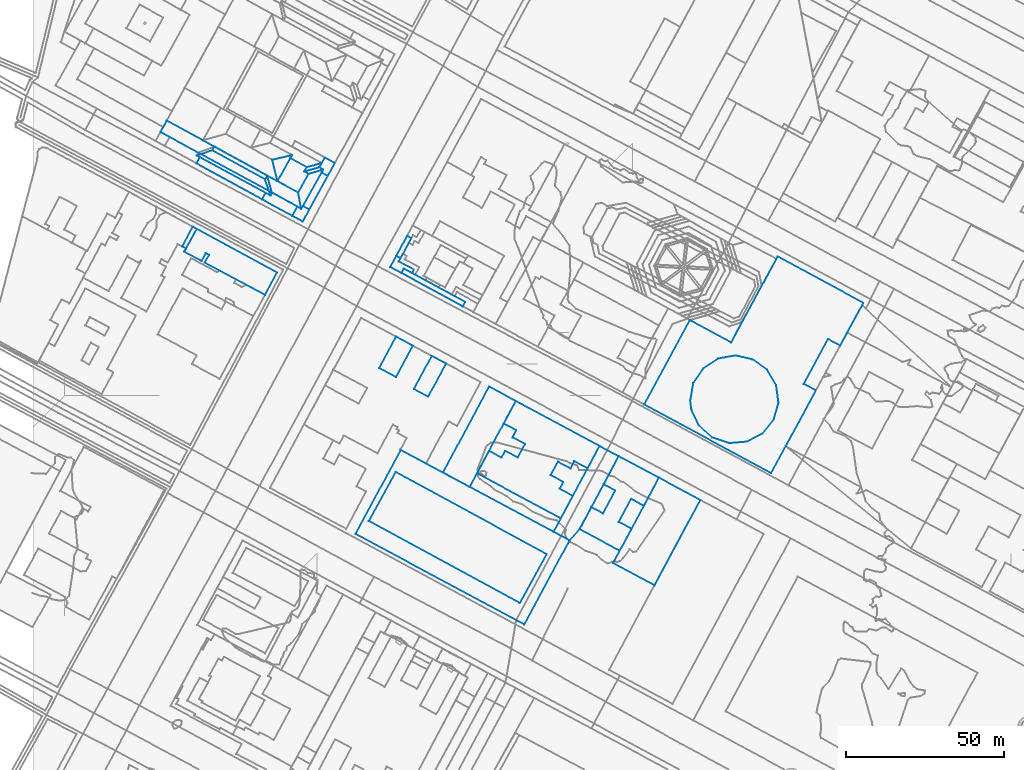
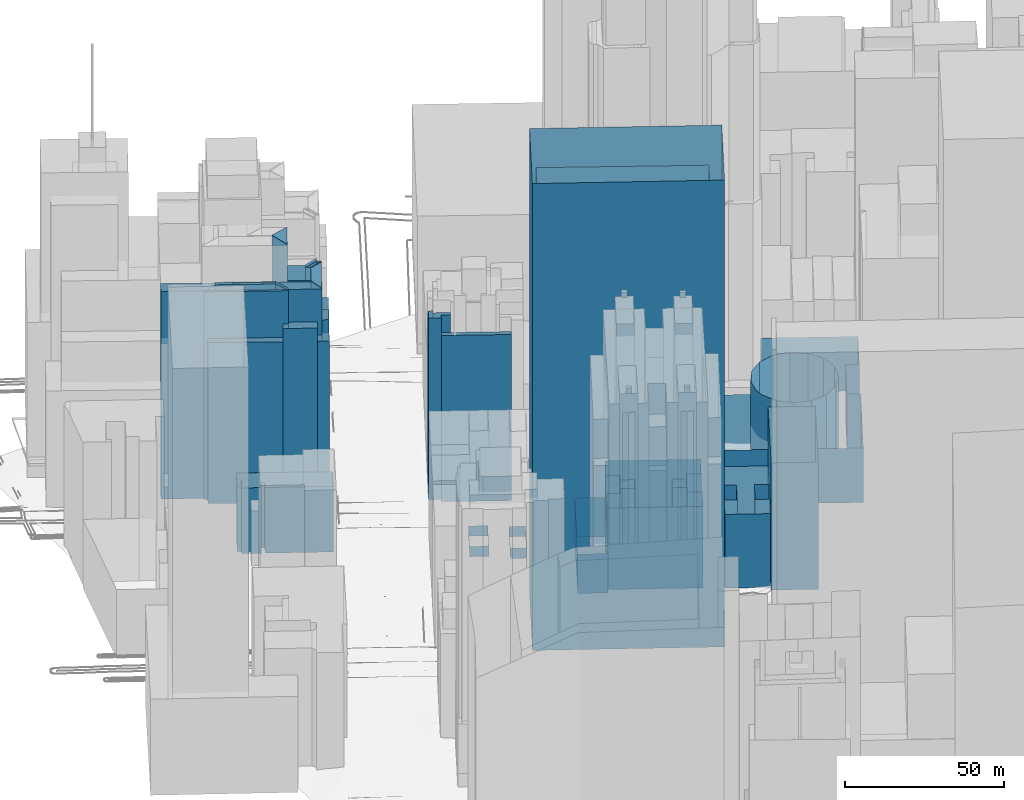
# Not in any storey, part 24 of 80: 30 walls.
"""IFC4 building model written with IfcOpenShell, lengths in metres."""

from ifc_helpers import new_model, si_unit, frame, origin_with_axes, place, context, subcontext, project, spatial, polygons, element, save


model = new_model("IFC4")

# Units and contexts
model_context = context("Model", 3, precision=1e-05, world=origin_with_axes())
body_context = subcontext(model_context, "Body", "Model", "MODEL_VIEW")
ifc_project = project(units=[si_unit("AREAUNIT", "SQUARE_METRE"), si_unit("LENGTHUNIT", "METRE")], contexts=[model_context])

# Sites, building
site_1_placement = place(None, origin_with_axes())
site_1 = spatial("IfcSite", under=ifc_project, at=site_1_placement, Name="Topoexport Site")
site_2_placement = place(site_1_placement, origin_with_axes())
site_2 = spatial("IfcSite", under=site_1, at=site_2_placement, Name="TPX_BATIMENTS")
building_1_placement = place(site_2_placement, frame((183.8820757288, 196.3915098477, 20.8609767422), z_axis=(0.0, 0.0, 1.0), x_axis=(1.0, 0.0, 0.0)))
building_1 = spatial("IfcBuilding", under=site_2, at=building_1_placement, Name="Batiment 41", CompositionType="ELEMENT")

# Wall
wall_1_placement = place(None, frame((183.8820757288, 196.3915098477, 20.8609767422), z_axis=(0.0, 0.0, 1.0), x_axis=(1.0, 0.0, 0.0)))
element("IfcWall", 1, at=wall_1_placement, inside=building_1, Name="Mur 0", context=body_context, shape_type="Tessellation", body=[
    polygons([(0.0, 0.0, 0.0), (13.0985430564, -7.030868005, 0.0), (27.6239079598, 20.0388061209, 0.0), (14.5169569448, 27.0695500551, 0.0), (0.0, 0.0, 49.0), (13.0985430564, -7.030868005, 49.0), (27.6239079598, 20.0388061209, 49.0), (14.5169569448, 27.0695500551, 49.0)], [[[6, 5, 2]], [[2, 5, 1]], [[7, 6, 3]], [[3, 6, 2]], [[5, 8, 1]], [[1, 8, 4]], [[8, 7, 4]], [[4, 7, 3]]]),
])

# Building
building_2_placement = place(site_2_placement, frame((102.2298570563, 205.6345629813, 20.5938253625), z_axis=(0.0, 0.0, 1.0), x_axis=(1.0, 0.0, 0.0)))
building_2 = spatial("IfcBuilding", under=site_2, at=building_2_placement, Name="Batiment 69", CompositionType="ELEMENT")

# Wall
wall_2_placement = place(None, frame((102.2298570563, 205.6345629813, 20.5938253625), z_axis=(0.0, 0.0, 1.0), x_axis=(1.0, 0.0, 0.0)))
element("IfcWall", 2, at=wall_2_placement, inside=building_2, Name="Mur 0", context=body_context, shape_type="Tessellation", body=[
    polygons([(0.0, 0.0, 0.0), (53.4972467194, -28.6328905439, 0.0), (67.8508291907, -2.0204918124, 0.0), (14.353712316, 26.6122941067, 0.0), (0.0, 0.0, 179.8000030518), (53.4972467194, -28.6328905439, 179.8000030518), (67.8508291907, -2.0204918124, 179.8000030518), (14.353712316, 26.6122941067, 179.8000030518)], [[[6, 5, 2]], [[2, 5, 1]], [[7, 6, 3]], [[3, 6, 2]], [[5, 8, 1]], [[1, 8, 4]], [[8, 7, 4]], [[4, 7, 3]]]),
])

# Building
building_3_placement = place(site_2_placement, frame((106.4781571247, 209.8028425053, 21.3379729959), z_axis=(0.0, 0.0, 1.0), x_axis=(1.0, 0.0, 0.0)))
building_3 = spatial("IfcBuilding", under=site_2, at=building_3_placement, Name="Batiment 70", CompositionType="ELEMENT")

# Wall
wall_3_placement = place(None, frame((106.4781571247, 209.8028425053, 21.3379729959), z_axis=(0.0, 0.0, 1.0), x_axis=(1.0, 0.0, 0.0)))
element("IfcWall", 3, at=wall_3_placement, inside=building_3, Name="Mur 0", context=body_context, shape_type="Tessellation", body=[
    polygons([(0.0, 0.0, 0.0), (47.8622501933, -26.0671157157, 0.0), (56.3684390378, -10.5694282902, 0.0), (8.5063843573, 15.4865312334, 0.0), (0.0, 0.0, 168.8000030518), (47.8622501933, -26.0671157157, 168.8000030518), (56.3684390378, -10.5694282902, 168.8000030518), (8.5063843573, 15.4865312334, 168.8000030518)], [[[6, 5, 2]], [[2, 5, 1]], [[7, 6, 3]], [[3, 6, 2]], [[5, 8, 1]], [[1, 8, 4]], [[8, 7, 4]], [[4, 7, 3]]]),
])

# Building
building_4_placement = place(site_2_placement, frame((164.9927892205, 206.3193932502, 19.6062191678), z_axis=(0.0, 0.0, 1.0), x_axis=(1.0, 0.0, 0.0)))
building_4 = spatial("IfcBuilding", under=site_2, at=building_4_placement, Name="Batiment 71", CompositionType="ELEMENT")

# Wall
wall_4_placement = place(None, frame((164.9927892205, 206.3193932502, 19.6062191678), z_axis=(0.0, 0.0, 1.0), x_axis=(1.0, 0.0, 0.0)))
element("IfcWall", 4, at=wall_4_placement, inside=building_4, Name="Mur 0", context=body_context, shape_type="Tessellation", body=[
    polygons([(0.0, 0.0, 0.0), (5.0878970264, -2.7053220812, 0.0), (8.2630231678, 0.8287960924, 0.0), (20.6479519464, 23.9544415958, 0.0), (14.5577861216, 27.1921115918, 0.0), (0.0, 0.0, 6.0), (5.0878970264, -2.7053220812, 6.0), (8.2630231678, 0.8287960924, 6.0), (20.6479519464, 23.9544415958, 6.0), (14.5577861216, 27.1921115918, 6.0)], [[[7, 6, 2]], [[2, 6, 1]], [[8, 7, 3]], [[3, 7, 2]], [[9, 8, 4]], [[4, 8, 3]], [[6, 10, 1]], [[1, 10, 5]], [[10, 9, 5]], [[5, 9, 4]]]),
])

# Building
building_5_placement = place(site_2_placement, frame((173.2558123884, 207.1481893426, 18.8067512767), z_axis=(0.0, 0.0, 1.0), x_axis=(1.0, 0.0, 0.0)))
building_5 = spatial("IfcBuilding", under=site_2, at=building_5_placement, Name="Batiment 72", CompositionType="ELEMENT")

# Wall
wall_5_placement = place(None, frame((173.2558123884, 207.1481893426, 18.8067512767), z_axis=(0.0, 0.0, 1.0), x_axis=(1.0, 0.0, 0.0)))
element("IfcWall", 5, at=wall_5_placement, inside=building_5, Name="Mur 0", context=body_context, shape_type="Tessellation", body=[
    polygons([(0.0, 0.0, 0.0), (12.733126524, -6.8241916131, 0.0), (16.475942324, 0.1582329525, 0.0), (12.3816260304, 2.3532869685, 0.0), (16.2731366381, 9.6149967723, 0.0), (20.3758905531, 7.4200430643, 0.0), (25.1432202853, 16.3128705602, 0.0), (12.3849287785, 23.1256455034, 0.0), (7.6512209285, 14.2443195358, 0.0), (11.2869121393, 12.2881807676, 0.0), (7.3952691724, 5.0375743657, 0.0), (3.742823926, 6.9824180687, 0.0), (0.0, 0.0, 28.3999996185), (12.733126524, -6.8241916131, 28.3999996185), (16.475942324, 0.1582329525, 28.3999996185), (12.3816260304, 2.3532869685, 28.3999996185), (16.2731366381, 9.6149967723, 28.3999996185), (20.3758905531, 7.4200430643, 28.3999996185), (25.1432202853, 16.3128705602, 28.3999996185), (12.3849287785, 23.1256455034, 28.3999996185), (7.6512209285, 14.2443195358, 28.3999996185), (11.2869121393, 12.2881807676, 28.3999996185), (7.3952691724, 5.0375743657, 28.3999996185), (3.742823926, 6.9824180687, 28.3999996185)], [[[14, 13, 2]], [[2, 13, 1]], [[15, 14, 3]], [[3, 14, 2]], [[16, 15, 4]], [[4, 15, 3]], [[17, 16, 5]], [[5, 16, 4]], [[18, 17, 6]], [[6, 17, 5]], [[19, 18, 7]], [[7, 18, 6]], [[20, 19, 8]], [[8, 19, 7]], [[21, 20, 9]], [[9, 20, 8]], [[22, 21, 10]], [[10, 21, 9]], [[23, 22, 11]], [[11, 22, 10]], [[13, 24, 1]], [[1, 24, 12]], [[24, 23, 12]], [[12, 23, 11]]]),
])

# Building
building_6_placement = place(site_2_placement, frame((140.736043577, 224.855812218, 18.8878227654), z_axis=(0.0, 0.0, 1.0), x_axis=(1.0, 0.0, 0.0)))
building_6 = spatial("IfcBuilding", under=site_2, at=building_6_placement, Name="Batiment 74", CompositionType="ELEMENT")

# Wall
wall_6_placement = place(None, frame((140.736043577, 224.855812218, 18.8878227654), z_axis=(0.0, 0.0, 1.0), x_axis=(1.0, 0.0, 0.0)))
element("IfcWall", 6, at=wall_6_placement, inside=building_6, Name="Mur 0", context=body_context, shape_type="Tessellation", body=[
    polygons([(0.0, 0.0, 0.0), (26.5536145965, -14.2464559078, 0.0), (30.3624164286, -7.1300469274, 0.0), (26.1831921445, -4.8915607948, 0.0), (27.3481177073, -2.7130804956, 0.0), (23.3727549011, -0.5832457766, 0.0), (25.6615651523, 3.6733168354, 0.0), (29.6369264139, 1.5434833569, 0.0), (30.8679530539, 3.8448574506, 0.0), (35.0471740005, 1.6063739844, 0.0), (38.8145317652, 8.6556926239, 0.0), (12.3027872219, 22.9358968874, 0.0), (8.4690509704, 15.7859003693, 0.0), (12.4614103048, 13.6451532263, 0.0), (11.254926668, 11.4106810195, 0.0), (15.2048295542, 9.2916463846, 0.0), (12.9161442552, 5.023986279, 0.0), (8.9662398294, 7.1430221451, 0.0), (7.801181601, 4.9756455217, 0.0), (3.8172594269, 7.11649328, 0.0), (0.0, 0.0, 31.3999996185), (26.5536145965, -14.2464559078, 31.3999996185), (30.3624164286, -7.1300469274, 31.3999996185), (26.1831921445, -4.8915607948, 31.3999996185), (27.3481177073, -2.7130804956, 31.3999996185), (23.3727549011, -0.5832457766, 31.3999996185), (25.6615651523, 3.6733168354, 31.3999996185), (29.6369264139, 1.5434833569, 31.3999996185), (30.8679530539, 3.8448574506, 31.3999996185), (35.0471740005, 1.6063739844, 31.3999996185), (38.8145317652, 8.6556926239, 31.3999996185), (12.3027872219, 22.9358968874, 31.3999996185), (8.4690509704, 15.7859003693, 31.3999996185), (12.4614103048, 13.6451532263, 31.3999996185), (11.254926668, 11.4106810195, 31.3999996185), (15.2048295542, 9.2916463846, 31.3999996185), (12.9161442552, 5.023986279, 31.3999996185), (8.9662398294, 7.1430221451, 31.3999996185), (7.801181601, 4.9756455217, 31.3999996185), (3.8172594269, 7.11649328, 31.3999996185)], [[[22, 21, 2]], [[2, 21, 1]], [[23, 22, 3]], [[3, 22, 2]], [[24, 23, 4]], [[4, 23, 3]], [[25, 24, 5]], [[5, 24, 4]], [[26, 25, 6]], [[6, 25, 5]], [[27, 26, 7]], [[7, 26, 6]], [[28, 27, 8]], [[8, 27, 7]], [[29, 28, 9]], [[9, 28, 8]], [[30, 29, 10]], [[10, 29, 9]], [[31, 30, 11]], [[11, 30, 10]], [[32, 31, 12]], [[12, 31, 11]], [[33, 32, 13]], [[13, 32, 12]], [[34, 33, 14]], [[14, 33, 13]], [[35, 34, 15]], [[15, 34, 14]], [[36, 35, 16]], [[16, 35, 15]], [[37, 36, 17]], [[17, 36, 16]], [[38, 37, 18]], [[18, 37, 17]], [[39, 38, 19]], [[19, 38, 18]], [[21, 40, 1]], [[1, 40, 20]], [[40, 39, 20]], [[20, 39, 19]]]),
])

# Building
building_7_placement = place(site_2_placement, frame((129.9536213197, 225.0858006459, 21.0283081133), z_axis=(0.0, 0.0, 1.0), x_axis=(1.0, 0.0, 0.0)))
building_7 = spatial("IfcBuilding", under=site_2, at=building_7_placement, Name="Batiment 75", CompositionType="ELEMENT")

# Wall
wall_7_placement = place(None, frame((129.9536213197, 225.0858006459, 21.0283081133), z_axis=(0.0, 0.0, 1.0), x_axis=(1.0, 0.0, 0.0)))
element("IfcWall", 7, at=wall_7_placement, inside=building_7, Name="Mur 0", context=body_context, shape_type="Tessellation", body=[
    polygons([(0.0, 0.0, 0.0), (8.4687912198, -4.5312400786, 0.0), (23.0852094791, 22.7059084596, 0.0), (14.6163103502, 27.2482324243, 0.0), (0.0, 0.0, 15.1999998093), (8.4687912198, -4.5312400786, 15.1999998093), (23.0852094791, 22.7059084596, 15.1999998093), (14.6163103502, 27.2482324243, 15.1999998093)], [[[6, 5, 2]], [[2, 5, 1]], [[7, 6, 3]], [[3, 6, 2]], [[5, 8, 1]], [[1, 8, 4]], [[8, 7, 4]], [[4, 7, 3]]]),
])

# Building
building_8_placement = place(site_2_placement, frame((109.7482592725, 258.2133415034, 22.1609130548), z_axis=(0.0, 0.0, 1.0), x_axis=(1.0, 0.0, 0.0)))
building_8 = spatial("IfcBuilding", under=site_2, at=building_8_placement, Name="Batiment 78", CompositionType="ELEMENT")

# Wall
wall_8_placement = place(None, frame((109.7482592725, 258.2133415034, 22.1609130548), z_axis=(0.0, 0.0, 1.0), x_axis=(1.0, 0.0, 0.0)))
element("IfcWall", 8, at=wall_8_placement, inside=building_8, Name="Mur 0", context=body_context, shape_type="Tessellation", body=[
    polygons([(0.0, 0.0, 0.0), (5.3429839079, -2.8689292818, 0.0), (10.6721950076, 7.073985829, 0.0), (5.3376562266, 9.9430092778, 0.0), (0.0, 0.0, 4.0), (5.3429839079, -2.8689292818, 4.0), (10.6721950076, 7.073985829, 4.0), (5.3376562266, 9.9430092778, 4.0)], [[[6, 5, 2]], [[2, 5, 1]], [[7, 6, 3]], [[3, 6, 2]], [[5, 8, 1]], [[1, 8, 4]], [[8, 7, 4]], [[4, 7, 3]]]),
])

# Building
building_9_placement = place(site_2_placement, frame((120.7569680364, 251.5799535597, 21.6785385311), z_axis=(0.0, 0.0, 1.0), x_axis=(1.0, 0.0, 0.0)))
building_9 = spatial("IfcBuilding", under=site_2, at=building_9_placement, Name="Batiment 79", CompositionType="ELEMENT")

# Wall
wall_9_placement = place(None, frame((120.7569680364, 251.5799535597, 21.6785385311), z_axis=(0.0, 0.0, 1.0), x_axis=(1.0, 0.0, 0.0)))
element("IfcWall", 9, at=wall_9_placement, inside=building_9, Name="Mur 0", context=body_context, shape_type="Tessellation", body=[
    polygons([(0.0, 0.0, 0.0), (4.5360060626, -2.4342069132, 0.0), (10.1793614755, 8.0785806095, 0.0), (5.6434887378, 10.5016832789, 0.0), (0.0, 0.0, 4.0), (4.5360060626, -2.4342069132, 4.0), (10.1793614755, 8.0785806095, 4.0), (5.6434887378, 10.5016832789, 4.0)], [[[6, 5, 2]], [[2, 5, 1]], [[7, 6, 3]], [[3, 6, 2]], [[5, 8, 1]], [[1, 8, 4]], [[8, 7, 4]], [[4, 7, 3]]]),
])

# Building
building_10_placement = place(site_2_placement, frame((116.8013041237, 288.3490732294, 22.6187660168), z_axis=(0.0, 0.0, 1.0), x_axis=(1.0, 0.0, 0.0)))
building_10 = spatial("IfcBuilding", under=site_2, at=building_10_placement, Name="Batiment 88", CompositionType="ELEMENT")

# Wall
wall_10_placement = place(None, frame((116.8013041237, 288.3490732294, 22.6187660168), z_axis=(0.0, 0.0, 1.0), x_axis=(1.0, 0.0, 0.0)))
element("IfcWall", 10, at=wall_10_placement, inside=building_10, Name="Mur 0", context=body_context, shape_type="Tessellation", body=[
    polygons([(0.0, 0.0, 0.0), (19.4281025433, -10.5545678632, 0.0), (20.2053640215, -9.1577545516, 0.0), (0.7771349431, 1.4079120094, 0.0), (0.0, 0.0, 64.0), (19.4281025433, -10.5545678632, 64.0), (20.2053640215, -9.1577545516, 64.0), (0.7771349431, 1.4079120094, 64.0)], [[[6, 5, 2]], [[2, 5, 1]], [[7, 6, 3]], [[3, 6, 2]], [[5, 8, 1]], [[1, 8, 4]], [[8, 7, 4]], [[4, 7, 3]]]),
])

# Building
building_11_placement = place(site_2_placement, frame((113.2505831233, 290.2618220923, 23.4496714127), z_axis=(0.0, 0.0, 1.0), x_axis=(1.0, 0.0, 0.0)))
building_11 = spatial("IfcBuilding", under=site_2, at=building_11_placement, Name="Batiment 89", CompositionType="ELEMENT")

# Wall
wall_11_placement = place(None, frame((113.2505831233, 290.2618220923, 23.4496714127), z_axis=(0.0, 0.0, 1.0), x_axis=(1.0, 0.0, 0.0)))
element("IfcWall", 11, at=wall_11_placement, inside=building_11, Name="Mur 0", context=body_context, shape_type="Tessellation", body=[
    polygons([(0.0, 0.0, 0.0), (3.5507210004, -1.912748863, 0.0), (4.3278559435, -0.5048368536, 0.0), (6.9103282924, -1.9070263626, 0.0), (7.4887654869, -0.8344899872, 0.0), (2.7316622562, 1.7414799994, 0.0), (3.2685432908, 2.7580220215, 0.0), (1.9180329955, 3.4750820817, 0.0), (0.0, 0.0, 70.0), (3.5507210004, -1.912748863, 70.0), (4.3278559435, -0.5048368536, 70.0), (6.9103282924, -1.9070263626, 70.0), (7.4887654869, -0.8344899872, 70.0), (2.7316622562, 1.7414799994, 70.0), (3.2685432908, 2.7580220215, 70.0), (1.9180329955, 3.4750820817, 70.0)], [[[10, 9, 2]], [[2, 9, 1]], [[11, 10, 3]], [[3, 10, 2]], [[12, 11, 4]], [[4, 11, 3]], [[13, 12, 5]], [[5, 12, 4]], [[14, 13, 6]], [[6, 13, 5]], [[15, 14, 7]], [[7, 14, 6]], [[9, 16, 1]], [[1, 16, 8]], [[16, 15, 8]], [[8, 15, 7]]]),
])

# Building
building_12_placement = place(site_2_placement, frame((115.1686161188, 293.7369041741, 23.6149483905), z_axis=(0.0, 0.0, 1.0), x_axis=(1.0, 0.0, 0.0)))
building_12 = spatial("IfcBuilding", under=site_2, at=building_12_placement, Name="Batiment 91", CompositionType="ELEMENT")

# Wall
wall_12_placement = place(None, frame((115.1686161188, 293.7369041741, 23.6149483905), z_axis=(0.0, 0.0, 1.0), x_axis=(1.0, 0.0, 0.0)))
element("IfcWall", 12, at=wall_12_placement, inside=building_12, Name="Mur 0", context=body_context, shape_type="Tessellation", body=[
    polygons([(0.0, 0.0, 0.0), (1.3505102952, -0.7170600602, 0.0), (4.7632106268, 5.6175640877, 0.0), (3.4125721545, 6.3457242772, 0.0), (0.0, 0.0, 64.0), (1.3505102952, -0.7170600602, 64.0), (4.7632106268, 5.6175640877, 64.0), (3.4125721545, 6.3457242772, 64.0)], [[[6, 5, 2]], [[2, 5, 1]], [[7, 6, 3]], [[3, 6, 2]], [[5, 8, 1]], [[1, 8, 4]], [[8, 7, 4]], [[4, 7, 3]]]),
])

# Building
building_13_placement = place(site_2_placement, frame((208.3375568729, 247.8905716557, 20.825107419), z_axis=(0.0, 0.0, 1.0), x_axis=(1.0, 0.0, 0.0)))
building_13 = spatial("IfcBuilding", under=site_2, at=building_13_placement, Name="Batiment 122", CompositionType="ELEMENT")

# Wall
wall_13_placement = place(None, frame((208.3375568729, 247.8905716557, 20.825107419), z_axis=(0.0, 0.0, 1.0), x_axis=(1.0, 0.0, 0.0)))
element("IfcWall", 13, at=wall_13_placement, inside=building_13, Name="Mur 0", context=body_context, shape_type="Tessellation", body=[
    polygons([(0.0, 0.0, 0.0), (0.3701435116, -2.7934642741, 0.0), (2.7424292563, -7.8951187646, 0.0), (6.9390853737, -11.6321820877, 0.0), (12.2781734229, -13.435265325, 0.0), (17.8949044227, -12.9813571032, 0.0), (22.8786233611, -10.3587654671, 0.0), (26.4239639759, -5.9987460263, 0.0), (27.9565517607, -0.5963225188, 0.0), (27.2249428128, 4.9685003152, 0.0), (24.3493255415, 9.7978381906, 0.0), (19.7863353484, 13.0976424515, 0.0), (14.2932254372, 14.3549177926, 0.0), (8.7506217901, 13.3356587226, 0.0), (4.0595645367, 10.2279804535, 0.0), (0.973996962, 5.5291486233, 0.0), (0.0, 0.0, 37.0), (0.3701435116, -2.7934642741, 37.0), (2.7424292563, -7.8951187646, 37.0), (6.9390853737, -11.6321820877, 37.0), (12.2781734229, -13.435265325, 37.0), (17.8949044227, -12.9813571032, 37.0), (22.8786233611, -10.3587654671, 37.0), (26.4239639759, -5.9987460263, 37.0), (27.9565517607, -0.5963225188, 37.0), (27.2249428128, 4.9685003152, 37.0), (24.3493255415, 9.7978381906, 37.0), (19.7863353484, 13.0976424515, 37.0), (14.2932254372, 14.3549177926, 37.0), (8.7506217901, 13.3356587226, 37.0), (4.0595645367, 10.2279804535, 37.0), (0.973996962, 5.5291486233, 37.0)], [[[18, 17, 2]], [[2, 17, 1]], [[19, 18, 3]], [[3, 18, 2]], [[20, 19, 4]], [[4, 19, 3]], [[21, 20, 5]], [[5, 20, 4]], [[22, 21, 6]], [[6, 21, 5]], [[23, 22, 7]], [[7, 22, 6]], [[24, 23, 8]], [[8, 23, 7]], [[25, 24, 9]], [[9, 24, 8]], [[26, 25, 10]], [[10, 25, 9]], [[27, 26, 11]], [[11, 26, 10]], [[28, 27, 12]], [[12, 27, 11]], [[29, 28, 13]], [[13, 28, 12]], [[30, 29, 14]], [[14, 29, 13]], [[31, 30, 15]], [[15, 30, 14]], [[17, 32, 1]], [[1, 32, 16]], [[32, 31, 16]], [[16, 31, 15]]]),
])

# Building
building_14_placement = place(site_2_placement, frame((193.7309608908, 246.6882133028, 19.7595905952), z_axis=(0.0, 0.0, 1.0), x_axis=(1.0, 0.0, 0.0)))
building_14 = spatial("IfcBuilding", under=site_2, at=building_14_placement, Name="Batiment 123", CompositionType="ELEMENT")

# Wall
wall_14_placement = place(None, frame((193.7309608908, 246.6882133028, 19.7595905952), z_axis=(0.0, 0.0, 1.0), x_axis=(1.0, 0.0, 0.0)))
element("IfcWall", 14, at=wall_14_placement, inside=building_14, Name="Mur 0", context=body_context, shape_type="Tessellation", body=[
    polygons([(0.0, 0.0, 0.0), (40.2234747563, -21.7700261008, 0.0), (54.4125243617, 4.4409408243, 0.0), (50.5303832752, 6.5385106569, 0.0), (58.2323186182, 20.7612951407, 0.0), (62.1144547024, 18.6637293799, 0.0), (69.4444224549, 32.2049607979, 0.0), (42.2947416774, 46.899331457, 0.0), (27.5521167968, 19.6605385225, 0.0), (14.4699178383, 26.7470627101, 0.0), (0.0, 0.0, 21.0), (40.2234747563, -21.7700261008, 21.0), (54.4125243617, 4.4409408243, 21.0), (50.5303832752, 6.5385106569, 21.0), (58.2323186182, 20.7612951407, 21.0), (62.1144547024, 18.6637293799, 21.0), (69.4444224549, 32.2049607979, 21.0), (42.2947416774, 46.899331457, 21.0), (27.5521167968, 19.6605385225, 21.0), (14.4699178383, 26.7470627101, 21.0)], [[[12, 11, 2]], [[2, 11, 1]], [[13, 12, 3]], [[3, 12, 2]], [[14, 13, 4]], [[4, 13, 3]], [[15, 14, 5]], [[5, 14, 4]], [[16, 15, 6]], [[6, 15, 5]], [[17, 16, 7]], [[7, 16, 6]], [[18, 17, 8]], [[8, 17, 7]], [[19, 18, 9]], [[9, 18, 8]], [[11, 20, 1]], [[1, 20, 10]], [[20, 19, 10]], [[10, 19, 9]]]),
])

# Building
building_15_placement = place(site_2_placement, frame((75.8576447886, 324.2223197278, 23.8818952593), z_axis=(0.0, 0.0, 1.0), x_axis=(1.0, 0.0, 0.0)))
building_15 = spatial("IfcBuilding", under=site_2, at=building_15_placement, Name="Batiment 148", CompositionType="ELEMENT")

# Wall
wall_15_placement = place(None, frame((75.8576447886, 324.2223197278, 23.8818952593), z_axis=(0.0, 0.0, 1.0), x_axis=(1.0, 0.0, 0.0)))
element("IfcWall", 15, at=wall_15_placement, inside=building_15, Name="Mur 0", context=body_context, shape_type="Tessellation", body=[
    polygons([(0.0, 0.0, 0.0), (1.6742153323, -6.7862405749, 0.0), (6.2713279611, 1.5050133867, 0.0), (0.0, 0.0, 94.0), (1.6742153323, -6.7862405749, 94.0), (6.2713279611, 1.5050133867, 94.0)], [[[5, 4, 2]], [[2, 4, 1]], [[4, 6, 1]], [[1, 6, 3]], [[6, 5, 3]], [[3, 5, 2]]]),
])

# Building
building_16_placement = place(site_2_placement, frame((51.8301050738, 323.0662829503, 23.5650277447), z_axis=(0.0, 0.0, 1.0), x_axis=(1.0, 0.0, 0.0)))
building_16 = spatial("IfcBuilding", under=site_2, at=building_16_placement, Name="Batiment 151", CompositionType="ELEMENT")

# Wall
wall_16_placement = place(None, frame((51.8301050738, 323.0662829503, 23.5650277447), z_axis=(0.0, 0.0, 1.0), x_axis=(1.0, 0.0, 0.0)))
element("IfcWall", 16, at=wall_16_placement, inside=building_16, Name="Mur 0", context=body_context, shape_type="Tessellation", body=[
    polygons([(0.0, 0.0, 0.0), (20.7629560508, -11.3941082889, 0.0), (21.9038617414, -9.3269442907, 0.0), (1.0828589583, 1.9776688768, 0.0), (0.0, 0.0, 62.0), (20.7629560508, -11.3941082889, 62.0), (21.9038617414, -9.3269442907, 62.0), (1.0828589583, 1.9776688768, 62.0)], [[[6, 5, 2]], [[2, 5, 1]], [[7, 6, 3]], [[3, 6, 2]], [[5, 8, 1]], [[1, 8, 4]], [[8, 7, 4]], [[4, 7, 3]]]),
])

# Building
building_17_placement = place(site_2_placement, frame((73.5998116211, 318.0232504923, 23.6934942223), z_axis=(0.0, 0.0, 1.0), x_axis=(1.0, 0.0, 0.0)))
building_17 = spatial("IfcBuilding", under=site_2, at=building_17_placement, Name="Batiment 160", CompositionType="ELEMENT")

# Wall
wall_17_placement = place(None, frame((73.5998116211, 318.0232504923, 23.6934942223), z_axis=(0.0, 0.0, 1.0), x_axis=(1.0, 0.0, 0.0)))
element("IfcWall", 17, at=wall_17_placement, inside=building_17, Name="Mur 0", context=body_context, shape_type="Tessellation", body=[
    polygons([(0.0, 0.0, 0.0), (1.7651185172, -5.1642565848, 0.0), (2.2527799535, -4.2704138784, 0.0), (0.6783061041, 1.1958170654, 0.0), (0.0, 0.0, 80.0), (1.7651185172, -5.1642565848, 80.0), (2.2527799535, -4.2704138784, 80.0), (0.6783061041, 1.1958170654, 80.0)], [[[6, 5, 2]], [[2, 5, 1]], [[7, 6, 3]], [[3, 6, 2]], [[5, 8, 1]], [[1, 8, 4]], [[8, 7, 4]], [[4, 7, 3]]]),
])

# Building
building_18_placement = place(site_2_placement, frame((72.5930611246, 311.6721746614, 23.6541015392), z_axis=(0.0, 0.0, 1.0), x_axis=(1.0, 0.0, 0.0)))
building_18 = spatial("IfcBuilding", under=site_2, at=building_18_placement, Name="Batiment 161", CompositionType="ELEMENT")

# Wall
wall_18_placement = place(None, frame((72.5930611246, 311.6721746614, 23.6541015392), z_axis=(0.0, 0.0, 1.0), x_axis=(1.0, 0.0, 0.0)))
element("IfcWall", 18, at=wall_18_placement, inside=building_18, Name="Mur 0", context=body_context, shape_type="Tessellation", body=[
    polygons([(0.0, 0.0, 0.0), (9.5908889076, -5.2177144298, 0.0), (11.2191958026, -2.2345041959, 0.0), (3.2595304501, 2.0806619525, 0.0), (2.7718690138, 1.186819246, 0.0), (1.1409056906, 2.0671639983, 0.0), (0.0, 0.0, 67.0), (9.5908889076, -5.2177144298, 67.0), (11.2191958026, -2.2345041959, 67.0), (3.2595304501, 2.0806619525, 67.0), (2.7718690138, 1.186819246, 67.0), (1.1409056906, 2.0671639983, 67.0)], [[[8, 7, 2]], [[2, 7, 1]], [[9, 8, 3]], [[3, 8, 2]], [[10, 9, 4]], [[4, 9, 3]], [[11, 10, 5]], [[5, 10, 4]], [[7, 12, 1]], [[1, 12, 6]], [[12, 11, 6]], [[6, 11, 5]]]),
])

# Building
building_19_placement = place(site_2_placement, frame((82.1839500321, 306.4544602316, 23.6541015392), z_axis=(0.0, 0.0, 1.0), x_axis=(1.0, 0.0, 0.0)))
building_19 = spatial("IfcBuilding", under=site_2, at=building_19_placement, Name="Batiment 162", CompositionType="ELEMENT")

# Wall
wall_19_placement = place(None, frame((82.1839500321, 306.4544602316, 23.6541015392), z_axis=(0.0, 0.0, 1.0), x_axis=(1.0, 0.0, 0.0)))
element("IfcWall", 19, at=wall_19_placement, inside=building_19, Name="Mur 0", context=body_context, shape_type="Tessellation", body=[
    polygons([(0.0, 0.0, 0.0), (3.3638596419, -1.8150130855, 0.0), (5.3873702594, 2.0276609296, 0.0), (3.390767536, 3.1369042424, 0.0), (2.8614214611, 2.1981677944, 0.0), (1.628306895, 2.983210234, 0.0), (0.0, 0.0, 62.0), (3.3638596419, -1.8150130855, 62.0), (5.3873702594, 2.0276609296, 62.0), (3.390767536, 3.1369042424, 62.0), (2.8614214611, 2.1981677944, 62.0), (1.628306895, 2.983210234, 62.0)], [[[8, 7, 2]], [[2, 7, 1]], [[9, 8, 3]], [[3, 8, 2]], [[10, 9, 4]], [[4, 9, 3]], [[11, 10, 5]], [[5, 10, 4]], [[7, 12, 1]], [[1, 12, 6]], [[12, 11, 6]], [[6, 11, 5]]]),
])

# Building
building_20_placement = place(site_2_placement, frame((84.0905066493, 313.8262916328, 23.7335275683), z_axis=(0.0, 0.0, 1.0), x_axis=(1.0, 0.0, 0.0)))
building_20 = spatial("IfcBuilding", under=site_2, at=building_20_placement, Name="Batiment 163", CompositionType="ELEMENT")

# Wall
wall_20_placement = place(None, frame((84.0905066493, 313.8262916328, 23.7335275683), z_axis=(0.0, 0.0, 1.0), x_axis=(1.0, 0.0, 0.0)))
element("IfcWall", 20, at=wall_20_placement, inside=building_20, Name="Mur 0", context=body_context, shape_type="Tessellation", body=[
    polygons([(0.0, 0.0, 0.0), (0.9548648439, -5.1736636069, 0.0), (7.9345415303, 7.2975078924, 0.0), (3.3073776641, 5.9559091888, 0.0), (0.0, 0.0, 80.0), (0.9548648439, -5.1736636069, 80.0), (7.9345415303, 7.2975078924, 80.0), (3.3073776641, 5.9559091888, 80.0)], [[[6, 5, 2]], [[2, 5, 1]], [[7, 6, 3]], [[3, 6, 2]], [[5, 8, 1]], [[1, 8, 4]], [[8, 7, 4]], [[4, 7, 3]]]),
])

# Building
building_21_placement = place(site_2_placement, frame((85.5747175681, 309.591364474, 23.7388524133), z_axis=(0.0, 0.0, 1.0), x_axis=(1.0, 0.0, 0.0)))
building_21 = spatial("IfcBuilding", under=site_2, at=building_21_placement, Name="Batiment 164", CompositionType="ELEMENT")

# Wall
wall_21_placement = place(None, frame((85.5747175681, 309.591364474, 23.7388524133), z_axis=(0.0, 0.0, 1.0), x_axis=(1.0, 0.0, 0.0)))
element("IfcWall", 21, at=wall_21_placement, inside=building_21, Name="Mur 0", context=body_context, shape_type="Tessellation", body=[
    polygons([(0.0, 0.0, 0.0), (1.9966027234, -1.1092433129, 0.0), (7.8583766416, 9.4948709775, 0.0), (5.9126749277, 10.5824993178, 0.0), (0.0, 0.0, 67.0), (1.9966027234, -1.1092433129, 67.0), (7.8583766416, 9.4948709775, 67.0), (5.9126749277, 10.5824993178, 67.0)], [[[6, 5, 2]], [[2, 5, 1]], [[7, 6, 3]], [[3, 6, 2]], [[5, 8, 1]], [[1, 8, 4]], [[8, 7, 4]], [[4, 7, 3]]]),
])

# Building
building_22_placement = place(site_2_placement, frame((47.9849679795, 295.0772811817, 22.6386360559), z_axis=(0.0, 0.0, 1.0), x_axis=(1.0, 0.0, 0.0)))
building_22 = spatial("IfcBuilding", under=site_2, at=building_22_placement, Name="Batiment 166", CompositionType="ELEMENT")

# Wall
wall_22_placement = place(None, frame((47.9849679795, 295.0772811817, 22.6386360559), z_axis=(0.0, 0.0, 1.0), x_axis=(1.0, 0.0, 0.0)))
element("IfcWall", 22, at=wall_22_placement, inside=building_22, Name="Mur 0", context=body_context, shape_type="Tessellation", body=[
    polygons([(0.0, 0.0, 0.0), (5.4873189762, -2.9450128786, 0.0), (6.8259021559, -0.4536717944, 0.0), (7.8112848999, -0.9862431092, 0.0), (6.4725730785, -3.4664836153, 0.0), (25.5503987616, -13.6700074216, 0.0), (29.3597658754, -6.5980497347, 0.0), (3.9253562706, 7.2620289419, 0.0), (0.0, 0.0, 25.2999992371), (5.4873189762, -2.9450128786, 25.2999992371), (6.8259021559, -0.4536717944, 25.2999992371), (7.8112848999, -0.9862431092, 25.2999992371), (6.4725730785, -3.4664836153, 25.2999992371), (25.5503987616, -13.6700074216, 25.2999992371), (29.3597658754, -6.5980497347, 25.2999992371), (3.9253562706, 7.2620289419, 25.2999992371)], [[[10, 9, 2]], [[2, 9, 1]], [[11, 10, 3]], [[3, 10, 2]], [[12, 11, 4]], [[4, 11, 3]], [[13, 12, 5]], [[5, 12, 4]], [[14, 13, 6]], [[6, 13, 5]], [[15, 14, 7]], [[7, 14, 6]], [[9, 16, 1]], [[1, 16, 8]], [[16, 15, 8]], [[8, 15, 7]]]),
])

# Building
building_23_placement = place(site_2_placement, frame((47.3240526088, 296.7460494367, 22.6341458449), z_axis=(0.0, 0.0, 1.0), x_axis=(1.0, 0.0, 0.0)))
building_23 = spatial("IfcBuilding", under=site_2, at=building_23_placement, Name="Batiment 167", CompositionType="ELEMENT")

# Wall
wall_23_placement = place(None, frame((47.3240526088, 296.7460494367, 22.6341458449), z_axis=(0.0, 0.0, 1.0), x_axis=(1.0, 0.0, 0.0)))
element("IfcWall", 23, at=wall_23_placement, inside=building_23, Name="Mur 0", context=body_context, shape_type="Tessellation", body=[
    polygons([(0.0, 0.0, 0.0), (1.2145569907, -0.6409345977, 0.0), (0.6609153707, -1.668768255, 0.0), (6.1482343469, -4.6137811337, 0.0), (7.4868175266, -2.1224400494, 0.0), (8.4722002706, -2.6550113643, 0.0), (7.1334884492, -5.1352518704, 0.0), (26.2113141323, -15.3387756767, 0.0), (30.0206812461, -8.2668179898, 0.0), (3.3375678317, 6.267105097, 0.0), (0.0, 0.0, 25.2999992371), (1.2145569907, -0.6409345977, 25.2999992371), (0.6609153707, -1.668768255, 25.2999992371), (6.1482343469, -4.6137811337, 25.2999992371), (7.4868175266, -2.1224400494, 25.2999992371), (8.4722002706, -2.6550113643, 25.2999992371), (7.1334884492, -5.1352518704, 25.2999992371), (26.2113141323, -15.3387756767, 25.2999992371), (30.0206812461, -8.2668179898, 25.2999992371), (3.3375678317, 6.267105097, 25.2999992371)], [[[12, 11, 2]], [[2, 11, 1]], [[13, 12, 3]], [[3, 12, 2]], [[14, 13, 4]], [[4, 13, 3]], [[15, 14, 5]], [[5, 14, 4]], [[16, 15, 6]], [[6, 15, 5]], [[17, 16, 7]], [[7, 16, 6]], [[18, 17, 8]], [[8, 17, 7]], [[19, 18, 9]], [[9, 18, 8]], [[11, 20, 1]], [[1, 20, 10]], [[20, 19, 10]], [[10, 19, 9]]]),
])

# Building
building_24_placement = place(site_2_placement, frame((40.4372493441, 332.9926795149, 23.2973875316), z_axis=(0.0, 0.0, 1.0), x_axis=(1.0, 0.0, 0.0)))
building_24 = spatial("IfcBuilding", under=site_2, at=building_24_placement, Name="Batiment 302", CompositionType="ELEMENT")

# Wall
wall_24_placement = place(None, frame((40.4372493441, 332.9926795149, 23.2973875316), z_axis=(0.0, 0.0, 1.0), x_axis=(1.0, 0.0, 0.0)))
element("IfcWall", 24, at=wall_24_placement, inside=building_24, Name="Mur 0", context=body_context, shape_type="Tessellation", body=[
    polygons([(0.0, 0.0, 0.0), (43.3750075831, -23.5550090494, 0.0), (44.6081221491, -24.340051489, 0.0), (43.6532573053, -19.1663878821, 0.0), (2.0171467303, 3.6649515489, 0.0), (0.0, 0.0, 80.0), (43.3750075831, -23.5550090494, 80.0), (44.6081221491, -24.340051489, 80.0), (43.6532573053, -19.1663878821, 80.0), (2.0171467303, 3.6649515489, 80.0)], [[[7, 6, 2]], [[2, 6, 1]], [[8, 7, 3]], [[3, 7, 2]], [[9, 8, 4]], [[4, 8, 3]], [[6, 10, 1]], [[1, 10, 5]], [[10, 9, 5]], [[5, 9, 4]]]),
])

# Building
building_25_placement = place(site_2_placement, frame((90.7756990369, 321.8531409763, 24.126993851), z_axis=(0.0, 0.0, 1.0), x_axis=(1.0, 0.0, 0.0)))
building_25 = spatial("IfcBuilding", under=site_2, at=building_25_placement, Name="Batiment 323", CompositionType="ELEMENT")

# Wall
wall_25_placement = place(None, frame((90.7756990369, 321.8531409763, 24.126993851), z_axis=(0.0, 0.0, 1.0), x_axis=(1.0, 0.0, 0.0)))
element("IfcWall", 25, at=wall_25_placement, inside=building_25, Name="Mur 0", context=body_context, shape_type="Tessellation", body=[
    polygons([(0.0, 0.0, 0.0), (1.2493491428, -0.7293414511, 0.0), (0.711693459, -1.6792771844, 0.0), (2.6573951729, -2.7669055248, 0.0), (4.9315253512, 1.3007267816, 0.0), (1.7368622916, 3.0843934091, 0.0), (0.0, 0.0, 62.0), (1.2493491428, -0.7293414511, 62.0), (0.711693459, -1.6792771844, 62.0), (2.6573951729, -2.7669055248, 62.0), (4.9315253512, 1.3007267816, 62.0), (1.7368622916, 3.0843934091, 62.0)], [[[8, 7, 2]], [[2, 7, 1]], [[9, 8, 3]], [[3, 8, 2]], [[10, 9, 4]], [[4, 9, 3]], [[11, 10, 5]], [[5, 10, 4]], [[7, 12, 1]], [[1, 12, 6]], [[12, 11, 6]], [[6, 11, 5]]]),
])

# Building
building_26_placement = place(site_2_placement, frame((86.0131052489, 320.5432770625, 24.0792113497), z_axis=(0.0, 0.0, 1.0), x_axis=(1.0, 0.0, 0.0)))
building_26 = spatial("IfcBuilding", under=site_2, at=building_26_placement, Name="Batiment 325", CompositionType="ELEMENT")

# Wall
wall_26_placement = place(None, frame((86.0131052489, 320.5432770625, 24.0792113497), z_axis=(0.0, 0.0, 1.0), x_axis=(1.0, 0.0, 0.0)))
element("IfcWall", 26, at=wall_26_placement, inside=building_26, Name="Mur 0", context=body_context, shape_type="Tessellation", body=[
    polygons([(0.0, 0.0, 0.0), (4.762593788, 1.3098639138, 0.0), (5.5154405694, 2.6286731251, 0.0), (0.7607723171, 1.3633097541, 0.0), (0.0, 0.0, 80.0), (4.762593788, 1.3098639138, 80.0), (5.5154405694, 2.6286731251, 80.0), (0.7607723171, 1.3633097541, 80.0)], [[[6, 5, 2]], [[2, 5, 1]], [[7, 6, 3]], [[3, 6, 2]], [[5, 8, 1]], [[1, 8, 4]], [[8, 7, 4]], [[4, 7, 3]]]),
])

# Building
building_27_placement = place(site_2_placement, frame((86.0131052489, 320.5432770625, 24.0792113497), z_axis=(0.0, 0.0, 1.0), x_axis=(1.0, 0.0, 0.0)))
building_27 = spatial("IfcBuilding", under=site_2, at=building_27_placement, Name="Batiment 326", CompositionType="ELEMENT")

# Wall
wall_27_placement = place(None, frame((86.0131052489, 320.5432770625, 24.0792113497), z_axis=(0.0, 0.0, 1.0), x_axis=(1.0, 0.0, 0.0)))
element("IfcWall", 27, at=wall_27_placement, inside=building_27, Name="Mur 0", context=body_context, shape_type="Tessellation", body=[
    polygons([(0.0, 0.0, 0.0), (1.3847790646, -0.7610762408, 0.0), (6.0119429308, 0.5805224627, 0.0), (4.762593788, 1.3098639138, 0.0), (0.0, 0.0, 80.0), (1.3847790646, -0.7610762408, 80.0), (6.0119429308, 0.5805224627, 80.0), (4.762593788, 1.3098639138, 80.0)], [[[6, 5, 2]], [[2, 5, 1]], [[7, 6, 3]], [[3, 6, 2]], [[5, 8, 1]], [[1, 8, 4]], [[8, 7, 4]], [[4, 7, 3]]]),
])

# Building
building_28_placement = place(site_2_placement, frame((77.5318601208, 317.4360791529, 23.8332747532), z_axis=(0.0, 0.0, 1.0), x_axis=(1.0, 0.0, 0.0)))
building_28 = spatial("IfcBuilding", under=site_2, at=building_28_placement, Name="Batiment 327", CompositionType="ELEMENT")

# Wall
wall_28_placement = place(None, frame((77.5318601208, 317.4360791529, 23.8332747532), z_axis=(0.0, 0.0, 1.0), x_axis=(1.0, 0.0, 0.0)))
element("IfcWall", 28, at=wall_28_placement, inside=building_28, Name="Mur 0", context=body_context, shape_type="Tessellation", body=[
    polygons([(0.0, 0.0, 0.0), (6.5586465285, -3.60978752, 0.0), (9.8660241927, 2.3461216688, 0.0), (8.4812451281, 3.1071979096, 0.0), (9.2420174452, 4.4705076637, 0.0), (4.059713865, 7.3191174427, 0.0), (0.0, 0.0, 80.0), (6.5586465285, -3.60978752, 80.0), (9.8660241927, 2.3461216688, 80.0), (8.4812451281, 3.1071979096, 80.0), (9.2420174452, 4.4705076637, 80.0), (4.059713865, 7.3191174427, 80.0)], [[[8, 7, 2]], [[2, 7, 1]], [[9, 8, 3]], [[3, 8, 2]], [[10, 9, 4]], [[4, 9, 3]], [[11, 10, 5]], [[5, 10, 4]], [[7, 12, 1]], [[1, 12, 6]], [[12, 11, 6]], [[6, 11, 5]]]),
])

# Building
building_29_placement = place(site_2_placement, frame((56.8465504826, 327.2323505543, 23.571723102), z_axis=(0.0, 0.0, 1.0), x_axis=(1.0, 0.0, 0.0)))
building_29 = spatial("IfcBuilding", under=site_2, at=building_29_placement, Name="Batiment 329", CompositionType="ELEMENT")

# Wall
wall_29_placement = place(None, frame((56.8465504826, 327.2323505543, 23.571723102), z_axis=(0.0, 0.0, 1.0), x_axis=(1.0, 0.0, 0.0)))
element("IfcWall", 29, at=wall_29_placement, inside=building_29, Name="Mur 0", context=body_context, shape_type="Tessellation", body=[
    polygons([(0.0, 0.0, 0.0), (16.7532611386, -9.209100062, 0.0), (17.4315672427, -8.0132829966, 0.0), (0.6872635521, 1.151510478, 0.0), (0.0, 0.0, 80.0), (16.7532611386, -9.209100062, 80.0), (17.4315672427, -8.0132829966, 80.0), (0.6872635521, 1.151510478, 80.0)], [[[6, 5, 2]], [[2, 5, 1]], [[7, 6, 3]], [[3, 6, 2]], [[5, 8, 1]], [[1, 8, 4]], [[8, 7, 4]], [[4, 7, 3]]]),
])

# Building
building_30_placement = place(site_2_placement, frame((51.9190164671, 325.5875262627, 23.5550313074), z_axis=(0.0, 0.0, 1.0), x_axis=(1.0, 0.0, 0.0)))
building_30 = spatial("IfcBuilding", under=site_2, at=building_30_placement, Name="Batiment 330", CompositionType="ELEMENT")

# Wall
wall_30_placement = place(None, frame((51.9190164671, 325.5875262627, 23.5550313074), z_axis=(0.0, 0.0, 1.0), x_axis=(1.0, 0.0, 0.0)))
element("IfcWall", 30, at=wall_30_placement, inside=building_30, Name="Mur 0", context=body_context, shape_type="Tessellation", body=[
    polygons([(0.0, 0.0, 0.0), (21.8149503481, -11.8481876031, 0.0), (23.4459136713, -12.7285323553, 0.0), (21.6807951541, -7.5642757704, 0.0), (4.9275340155, 1.6448242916, 0.0), (0.0, 0.0, 80.0), (21.8149503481, -11.8481876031, 80.0), (23.4459136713, -12.7285323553, 80.0), (21.6807951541, -7.5642757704, 80.0), (4.9275340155, 1.6448242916, 80.0)], [[[7, 6, 2]], [[2, 6, 1]], [[8, 7, 3]], [[3, 7, 2]], [[9, 8, 4]], [[4, 8, 3]], [[6, 10, 1]], [[1, 10, 5]], [[10, 9, 5]], [[5, 9, 4]]]),
])

save(model, "model.ifc")
